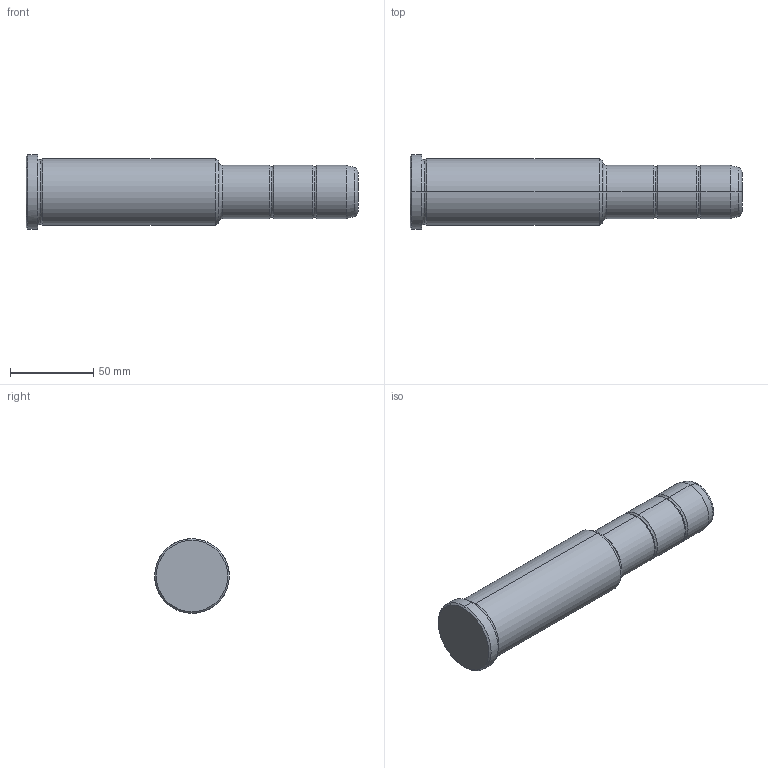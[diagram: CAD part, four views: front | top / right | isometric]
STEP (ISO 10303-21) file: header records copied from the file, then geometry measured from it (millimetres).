
FILE_DESCRIPTION(('CATIA V5 STEP Exchange'),'2;1');
FILE_NAME('C:\Users\Utente\Desktop\IO LAVORO\3D X SITO CF\X SITO\PLASTICA\351\351-32X116X200.stp','2021-09-15T11:40:31+00:00',('none'),('none'),'CATIA Version 5 Release 20 GA (IN-10)','CATIA V5 STEP AP203','none');
FILE_SCHEMA(('CONFIG_CONTROL_DESIGN'));
Length unit declared in the file: millimetre
Products named in the file (1): 351-32X116X200
Bounding box: 200 x 45 x 45 mm (x, y, z)
Volume: 214458 mm3; surface area: 25883.1 mm2
Topology: 1 solids, 1 shells, 36 faces, 102 edges, 70 vertices
Faces by surface type: torus 16, cylinder 10, cone 6, plane 4
Entity records: 1292 total; most frequent: CARTESIAN_POINT 321, ORIENTED_EDGE 204, DIRECTION 166, AXIS2_PLACEMENT_3D 115, EDGE_CURVE 102, CIRCLE 78, VERTEX_POINT 70, EDGE_LOOP 38
